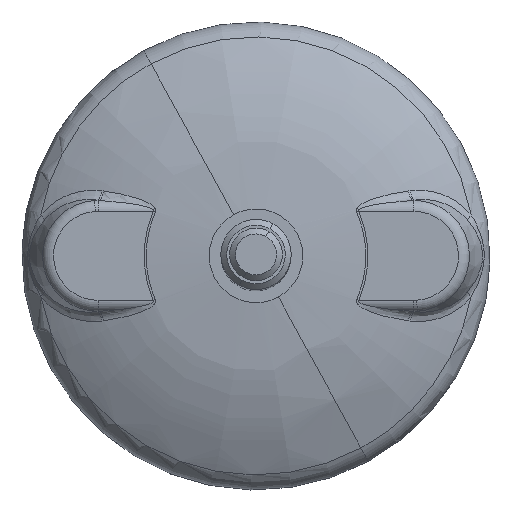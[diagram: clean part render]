
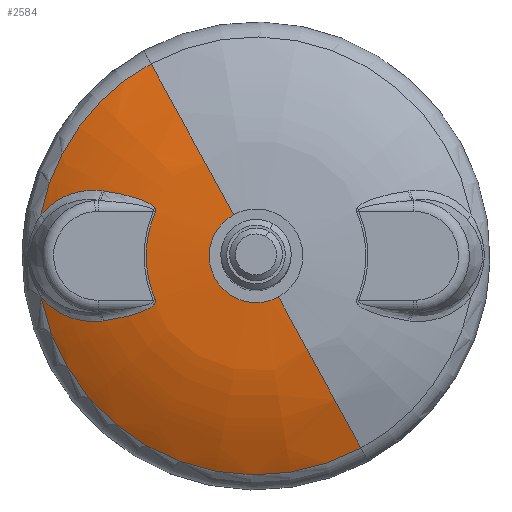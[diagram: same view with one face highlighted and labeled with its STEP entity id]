
A CAD part, top view. The second image highlights one B-rep face of the part: STEP entity #2584.
In plain terms, the highlighted face is a revolution surface.
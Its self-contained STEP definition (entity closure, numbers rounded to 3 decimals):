
#2584=ADVANCED_FACE('',(#7596),#7597,.F.);
#3254=EDGE_CURVE('',#8777,#8325,#8778,.F.);
#3344=EDGE_CURVE('',#8925,#8840,#8926,.F.);
#3744=EDGE_CURVE('',#9568,#8348,#9569,.F.);
#4342=EDGE_CURVE('',#8067,#8066,#10438,.T.);
#4504=EDGE_CURVE('',#9117,#8348,#10659,.T.);
#5124=EDGE_CURVE('',#8501,#8066,#11498,.T.);
#5204=EDGE_CURVE('',#8325,#9568,#11601,.F.);
#5542=EDGE_CURVE('',#9926,#8501,#12029,.T.);
#6290=EDGE_CURVE('',#8840,#8777,#12912,.F.);
#6516=EDGE_CURVE('',#13181,#8925,#13182,.T.);
#6672=EDGE_CURVE('',#9117,#8067,#13359,.T.);
#6978=EDGE_CURVE('',#9926,#13181,#13713,.F.);
#7596=FACE_OUTER_BOUND('',#14504,.T.);
#7597=SURFACE_OF_REVOLUTION('',#14505,#14506);
#8066=VERTEX_POINT('',#15627);
#8067=VERTEX_POINT('',#15628);
#8325=VERTEX_POINT('',#16289);
#8348=VERTEX_POINT('',#16325);
#8501=VERTEX_POINT('',#16593);
#8777=VERTEX_POINT('',#17095);
#8778=B_SPLINE_CURVE_WITH_KNOTS('',5,(#17096,#17097,#17098,#17099,#17100,#17101,#17102,#17103,#17104,#17105,#17106,#17107,#17108,#17109,#17110,#17111,#17112,#17113,#17114,#17115,#17116),.UNSPECIFIED.,.F.,.F.,(6,3,3,3,3,3,6),(20.702,28.583,32.378,33.408,34.102,34.446,34.702),.UNSPECIFIED.);
#8840=VERTEX_POINT('',#17217);
#8925=VERTEX_POINT('',#17459);
#8926=B_SPLINE_CURVE_WITH_KNOTS('',5,(#17460,#17461,#17462,#17463,#17464,#17465,#17466,#17467,#17468,#17469,#17470,#17471,#17472,#17473,#17474,#17475,#17476,#17477,#17478,#17479,#17480,#17481,#17482,#17483),.UNSPECIFIED.,.F.,.F.,(6,3,3,3,3,3,3,6),(30.415,30.632,30.85,31.433,32.436,34.208,38.264,44.425),.UNSPECIFIED.);
#9117=VERTEX_POINT('',#17824);
#9568=VERTEX_POINT('',#18766);
#9569=B_SPLINE_CURVE_WITH_KNOTS('',5,(#18767,#18768,#18769,#18770,#18771,#18772,#18773,#18774,#18775,#18776,#18777,#18778),.UNSPECIFIED.,.F.,.F.,(6,3,3,6),(46.598,50.847,54.838,60.567),.UNSPECIFIED.);
#9926=VERTEX_POINT('',#19398);
#10438=CIRCLE('',#20535,8.0);
#10659=CIRCLE('',#21029,37.429);
#11498=CIRCLE('',#22755,60.571);
#11601=B_SPLINE_CURVE_WITH_KNOTS('',3,(#22942,#22943,#22944,#22945),.UNSPECIFIED.,.F.,.F.,(4,4),(22.922,23.374),.UNSPECIFIED.);
#12029=CIRCLE('',#23888,37.429);
#12912=CIRCLE('',#25876,18.786);
#13181=VERTEX_POINT('',#26421);
#13182=B_SPLINE_CURVE_WITH_KNOTS('',3,(#26422,#26423,#26424,#26425),.UNSPECIFIED.,.F.,.F.,(4,4),(22.922,23.374),.UNSPECIFIED.);
#13359=CIRCLE('',#26799,60.571);
#13713=B_SPLINE_CURVE_WITH_KNOTS('',5,(#27569,#27570,#27571,#27572,#27573,#27574,#27575,#27576,#27577,#27578,#27579,#27580),.UNSPECIFIED.,.F.,.F.,(6,3,3,6),(20.32,27.869,31.321,34.286),.UNSPECIFIED.);
#14504=EDGE_LOOP('',(#28796,#28797,#28798,#28799,#28800,#28801,#28802,#28803,#28804,#28805,#28806,#28807));
#14505=B_SPLINE_CURVE_WITH_KNOTS('',4,(#28808,#28809,#28810,#28811,#28812),.UNSPECIFIED.,.F.,.F.,(5,5),(64.415,95.145),.UNSPECIFIED.);
#14506=AXIS1_PLACEMENT('',#28813,#28814);
#15627=CARTESIAN_POINT('',(3.835,-7.021,17.0));
#15628=CARTESIAN_POINT('',(-3.835,7.021,17.0));
#16289=CARTESIAN_POINT('',(-26.074,11.095,13.484));
#16325=CARTESIAN_POINT('',(-36.769,6.997,9.37));
#16593=CARTESIAN_POINT('',(17.945,-32.847,9.37));
#17095=CARTESIAN_POINT('',(-17.242,7.458,16.032));
#17096=CARTESIAN_POINT('',(-26.074,11.095,13.484));
#17097=CARTESIAN_POINT('',(-25.003,10.963,13.854));
#17098=CARTESIAN_POINT('',(-23.936,10.786,14.2));
#17099=CARTESIAN_POINT('',(-22.87,10.565,14.525));
#17100=CARTESIAN_POINT('',(-21.297,10.181,14.971));
#17101=CARTESIAN_POINT('',(-19.75,9.654,15.368));
#17102=CARTESIAN_POINT('',(-19.253,9.461,15.491));
#17103=CARTESIAN_POINT('',(-18.624,9.196,15.642));
#17104=CARTESIAN_POINT('',(-18.025,8.834,15.785));
#17105=CARTESIAN_POINT('',(-17.9,8.752,15.815));
#17106=CARTESIAN_POINT('',(-17.693,8.603,15.865));
#17107=CARTESIAN_POINT('',(-17.498,8.42,15.914));
#17108=CARTESIAN_POINT('',(-17.422,8.339,15.934));
#17109=CARTESIAN_POINT('',(-17.313,8.205,15.963));
#17110=CARTESIAN_POINT('',(-17.228,8.027,15.992));
#17111=CARTESIAN_POINT('',(-17.203,7.959,16.001));
#17112=CARTESIAN_POINT('',(-17.171,7.826,16.017));
#17113=CARTESIAN_POINT('',(-17.178,7.663,16.028));
#17114=CARTESIAN_POINT('',(-17.192,7.589,16.031));
#17115=CARTESIAN_POINT('',(-17.215,7.521,16.032));
#17116=CARTESIAN_POINT('',(-17.242,7.458,16.032));
#17217=CARTESIAN_POINT('',(-17.242,-7.458,16.032));
#17459=CARTESIAN_POINT('',(-26.073,-11.095,13.484));
#17460=CARTESIAN_POINT('',(-17.242,-7.458,16.032));
#17461=CARTESIAN_POINT('',(-17.219,-7.511,16.032));
#17462=CARTESIAN_POINT('',(-17.199,-7.569,16.031));
#17463=CARTESIAN_POINT('',(-17.185,-7.63,16.029));
#17464=CARTESIAN_POINT('',(-17.172,-7.751,16.022));
#17465=CARTESIAN_POINT('',(-17.183,-7.858,16.012));
#17466=CARTESIAN_POINT('',(-17.193,-7.908,16.007));
#17467=CARTESIAN_POINT('',(-17.24,-8.074,15.986));
#17468=CARTESIAN_POINT('',(-17.315,-8.197,15.964));
#17469=CARTESIAN_POINT('',(-17.373,-8.277,15.947));
#17470=CARTESIAN_POINT('',(-17.542,-8.473,15.902));
#17471=CARTESIAN_POINT('',(-17.727,-8.626,15.857));
#17472=CARTESIAN_POINT('',(-17.844,-8.713,15.828));
#17473=CARTESIAN_POINT('',(-18.182,-8.939,15.747));
#17474=CARTESIAN_POINT('',(-18.534,-9.126,15.663));
#17475=CARTESIAN_POINT('',(-18.758,-9.234,15.61));
#17476=CARTESIAN_POINT('',(-19.512,-9.571,15.427));
#17477=CARTESIAN_POINT('',(-20.283,-9.84,15.232));
#17478=CARTESIAN_POINT('',(-20.822,-10.012,15.091));
#17479=CARTESIAN_POINT('',(-22.189,-10.402,14.719));
#17480=CARTESIAN_POINT('',(-23.569,-10.705,14.309));
#17481=CARTESIAN_POINT('',(-24.4,-10.861,14.049));
#17482=CARTESIAN_POINT('',(-25.236,-10.992,13.773));
#17483=CARTESIAN_POINT('',(-26.073,-11.095,13.484));
#17824=CARTESIAN_POINT('',(-17.945,32.847,9.37));
#18766=CARTESIAN_POINT('',(-26.373,11.133,13.38));
#18767=CARTESIAN_POINT('',(-36.769,6.997,9.37));
#18768=CARTESIAN_POINT('',(-36.211,7.682,9.604));
#18769=CARTESIAN_POINT('',(-35.616,8.275,9.851));
#18770=CARTESIAN_POINT('',(-35.,8.788,10.103));
#18771=CARTESIAN_POINT('',(-33.777,9.646,10.598));
#18772=CARTESIAN_POINT('',(-32.52,10.263,11.094));
#18773=CARTESIAN_POINT('',(-31.907,10.51,11.333));
#18774=CARTESIAN_POINT('',(-30.413,10.997,11.909));
#18775=CARTESIAN_POINT('',(-28.927,11.22,12.464));
#18776=CARTESIAN_POINT('',(-28.06,11.268,12.781));
#18777=CARTESIAN_POINT('',(-27.207,11.238,13.087));
#18778=CARTESIAN_POINT('',(-26.373,11.133,13.38));
#19398=CARTESIAN_POINT('',(-36.769,-6.997,9.37));
#20535=AXIS2_PLACEMENT_3D('',#31821,#31822,#31823);
#21029=AXIS2_PLACEMENT_3D('',#32039,#32040,#32041);
#22755=AXIS2_PLACEMENT_3D('',#33055,#33056,#33057);
#22942=CARTESIAN_POINT('',(-26.373,11.133,13.38));
#22943=CARTESIAN_POINT('',(-26.273,11.12,13.415));
#22944=CARTESIAN_POINT('',(-26.173,11.108,13.45));
#22945=CARTESIAN_POINT('',(-26.073,11.095,13.484));
#23888=AXIS2_PLACEMENT_3D('',#33506,#33507,#33508);
#25876=AXIS2_PLACEMENT_3D('',#34445,#34446,#34447);
#26421=CARTESIAN_POINT('',(-26.373,-11.133,13.38));
#26422=CARTESIAN_POINT('',(-26.373,-11.133,13.38));
#26423=CARTESIAN_POINT('',(-26.273,-11.12,13.415));
#26424=CARTESIAN_POINT('',(-26.173,-11.108,13.45));
#26425=CARTESIAN_POINT('',(-26.073,-11.095,13.484));
#26799=AXIS2_PLACEMENT_3D('',#34975,#34976,#34977);
#27569=CARTESIAN_POINT('',(-26.373,-11.133,13.38));
#27570=CARTESIAN_POINT('',(-27.473,-11.271,12.993));
#27571=CARTESIAN_POINT('',(-28.605,-11.279,12.585));
#27572=CARTESIAN_POINT('',(-29.758,-11.15,12.157));
#27573=CARTESIAN_POINT('',(-31.455,-10.743,11.512));
#27574=CARTESIAN_POINT('',(-33.135,-9.962,10.852));
#27575=CARTESIAN_POINT('',(-33.659,-9.678,10.643));
#27576=CARTESIAN_POINT('',(-34.621,-9.071,10.257));
#27577=CARTESIAN_POINT('',(-35.551,-8.302,9.877));
#27578=CARTESIAN_POINT('',(-35.971,-7.91,9.703));
#27579=CARTESIAN_POINT('',(-36.379,-7.476,9.533));
#27580=CARTESIAN_POINT('',(-36.769,-6.997,9.37));
#28796=ORIENTED_EDGE('',*,*,#5542,.T.);
#28797=ORIENTED_EDGE('',*,*,#5124,.T.);
#28798=ORIENTED_EDGE('',*,*,#4342,.F.);
#28799=ORIENTED_EDGE('',*,*,#6672,.F.);
#28800=ORIENTED_EDGE('',*,*,#4504,.T.);
#28801=ORIENTED_EDGE('',*,*,#3744,.F.);
#28802=ORIENTED_EDGE('',*,*,#5204,.F.);
#28803=ORIENTED_EDGE('',*,*,#3254,.F.);
#28804=ORIENTED_EDGE('',*,*,#6290,.F.);
#28805=ORIENTED_EDGE('',*,*,#3344,.F.);
#28806=ORIENTED_EDGE('',*,*,#6516,.F.);
#28807=ORIENTED_EDGE('',*,*,#6978,.F.);
#28808=CARTESIAN_POINT('',(-17.945,32.847,9.37));
#28809=CARTESIAN_POINT('',(-14.725,26.954,13.103));
#28810=CARTESIAN_POINT('',(-11.203,20.506,15.7));
#28811=CARTESIAN_POINT('',(-7.519,13.763,17.0));
#28812=CARTESIAN_POINT('',(-3.835,7.021,17.0));
#28813=CARTESIAN_POINT('',(0.0,0.0,9.37));
#28814=DIRECTION('',(-0.0,-0.0,-1.0));
#31821=CARTESIAN_POINT('',(0.0,0.0,17.0));
#31822=DIRECTION('',(0.0,0.0,1.0));
#31823=DIRECTION('',(1.0,0.0,0.0));
#32039=CARTESIAN_POINT('',(0.0,0.0,9.37));
#32040=DIRECTION('',(0.0,0.0,1.0));
#32041=DIRECTION('',(1.0,0.0,0.0));
#33055=CARTESIAN_POINT('',(3.835,-7.021,-43.571));
#33056=DIRECTION('',(-0.878,-0.479,0.0));
#33057=DIRECTION('',(0.479,-0.878,0.0));
#33506=CARTESIAN_POINT('',(0.0,0.0,9.37));
#33507=DIRECTION('',(0.0,0.0,1.0));
#33508=DIRECTION('',(1.0,0.0,0.0));
#34445=CARTESIAN_POINT('',(0.0,0.0,16.032));
#34446=DIRECTION('',(0.0,0.0,1.0));
#34447=DIRECTION('',(1.0,0.0,0.0));
#34975=CARTESIAN_POINT('',(-3.835,7.021,-43.571));
#34976=DIRECTION('',(0.878,0.479,0.0));
#34977=DIRECTION('',(0.479,-0.878,0.0));
